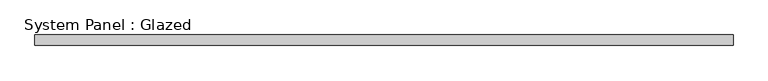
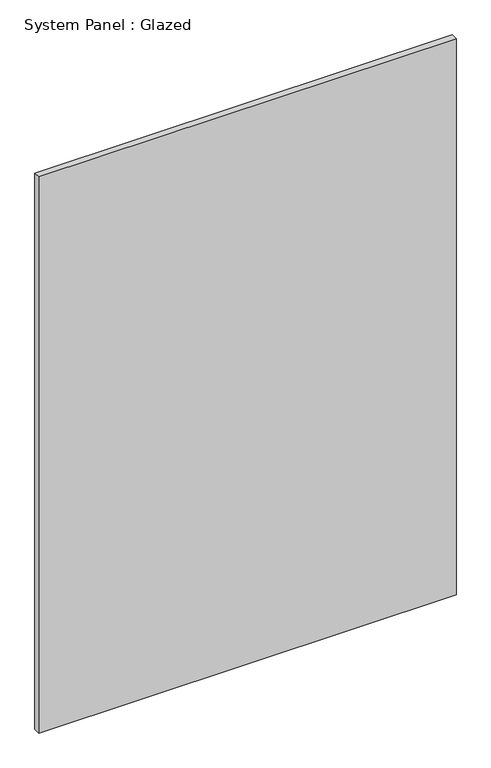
"""IFC4 building model written with IfcOpenShell, lengths in millimetres: plate geometry, System Panel : Glazed."""

from ifc_helpers import new_model, si_unit, origin, origin_with_axes, place, context, project, spatial, polyline, outline, extrude, source, transform, mapped, element, save


def system_panel_glazed_13d95e58(model_context):
    return source(origin(), model_context, "Body", "SweptSolid", [
        extrude(outline(polyline([(842.957653, 19.05), (-842.957653, 19.05), (-842.957653, 44.45), (842.957653, 44.45), (842.957653, 19.05)])), origin_with_axes(), (0.0, 0.0, 1.0), 2374.7638735),
    ])


if __name__ == "__main__":
    model = new_model("IFC4")
    model_context = context("Model", 3, world=origin())
    ifc_project = project(units=[si_unit("LENGTHUNIT", "METRE", prefix="MILLI")], contexts=[model_context])
    site = spatial("IfcSite", under=ifc_project)
    building = spatial("IfcBuilding", under=site)
    placement = place(None, origin())
    system_panel_glazed_shape = system_panel_glazed_13d95e58(model_context)
    element("IfcPlate", 1, ObjectType="System Panel : Glazed", at=placement, inside=building, context=model_context, shape_type="MappedRepresentation", body=[
        mapped(system_panel_glazed_shape, transform((0.0, 0.0, 0.0), x_axis=(1.0, 0.0, 0.0), y_axis=(0.0, 1.0, 0.0), z_axis=(0.0, 0.0, 1.0))),
    ])
    save(model, "model.ifc")
